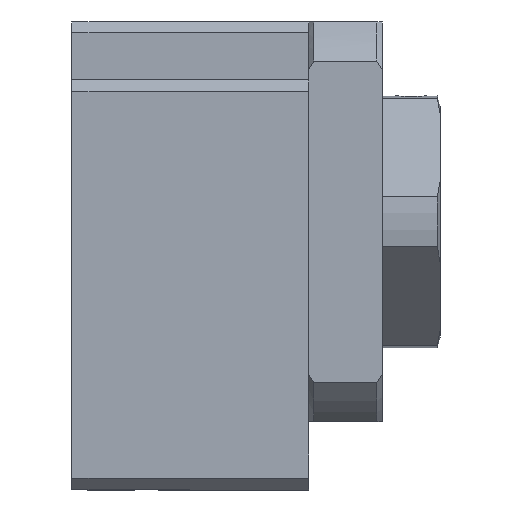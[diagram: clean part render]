
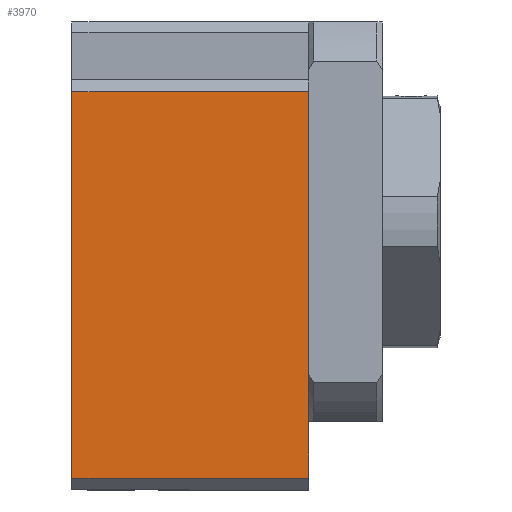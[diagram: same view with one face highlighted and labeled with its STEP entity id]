
A CAD part, left-side view. The second image highlights one B-rep face of the part: STEP entity #3970.
In plain terms, the highlighted free-form (B-spline) face has degree [1, 1] with [2, 2] control points.
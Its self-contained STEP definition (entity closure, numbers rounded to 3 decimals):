
#3642=CARTESIAN_POINT('',(-64.,-48.72,0.));
#3643=VERTEX_POINT('',#3642);
#3649=CARTESIAN_POINT('',(-64.,-48.72,-45.));
#3650=VERTEX_POINT('',#3649);
#3651=CARTESIAN_POINT('',(-64.,-48.72,0.));
#3652=CARTESIAN_POINT('',(-64.,-48.72,-45.));
#3653=B_SPLINE_CURVE_WITH_KNOTS('',1,(#3651,#3652),.POLYLINE_FORM.,.F.,.U.,(2,2),(0.,1.),.UNSPECIFIED.);
#3654=EDGE_CURVE('',#3643,#3650,#3653,.T.);
#3928=CARTESIAN_POINT('',(-64.,24.72,0.));
#3929=VERTEX_POINT('',#3928);
#3936=CARTESIAN_POINT('',(-64.,24.72,-45.));
#3937=VERTEX_POINT('',#3936);
#3943=CARTESIAN_POINT('',(-64.,24.72,-45.));
#3944=CARTESIAN_POINT('',(-64.,24.72,0.));
#3945=B_SPLINE_CURVE_WITH_KNOTS('',1,(#3943,#3944),.POLYLINE_FORM.,.F.,.U.,(2,2),(0.,1.),.UNSPECIFIED.);
#3946=EDGE_CURVE('',#3937,#3929,#3945,.T.);
#3951=CARTESIAN_POINT('',(-64.,-104.475,-174.195));
#3952=CARTESIAN_POINT('',(-64.,153.915,-174.195));
#3953=CARTESIAN_POINT('',(-64.,-104.475,84.195));
#3954=CARTESIAN_POINT('',(-64.,153.915,84.195));
#3955=B_SPLINE_SURFACE_WITH_KNOTS('',1,1,((#3951,#3952),(#3953,#3954)),.PLANE_SURF.,.F.,.F.,.U.,(2,2),(2,2),(0.,1.),(0.,1.),.UNSPECIFIED.);
#3956=CARTESIAN_POINT('',(-64.,-48.72,0.));
#3957=CARTESIAN_POINT('',(-64.,24.72,0.));
#3958=B_SPLINE_CURVE_WITH_KNOTS('',1,(#3956,#3957),.POLYLINE_FORM.,.F.,.U.,(2,2),(0.,1.),.UNSPECIFIED.);
#3959=EDGE_CURVE('',#3643,#3929,#3958,.T.);
#3960=ORIENTED_EDGE('',*,*,#3959,.T.);
#3961=ORIENTED_EDGE('',*,*,#3946,.F.);
#3962=CARTESIAN_POINT('',(-64.,24.72,-45.));
#3963=CARTESIAN_POINT('',(-64.,-48.72,-45.));
#3964=B_SPLINE_CURVE_WITH_KNOTS('',1,(#3962,#3963),.POLYLINE_FORM.,.F.,.U.,(2,2),(0.,1.),.UNSPECIFIED.);
#3965=EDGE_CURVE('',#3937,#3650,#3964,.T.);
#3966=ORIENTED_EDGE('',*,*,#3965,.T.);
#3967=ORIENTED_EDGE('',*,*,#3654,.F.);
#3968=EDGE_LOOP('',(#3960,#3961,#3966,#3967));
#3969=FACE_OUTER_BOUND('',#3968,.T.);
#3970=ADVANCED_FACE('',(#3969),#3955,.T.);
